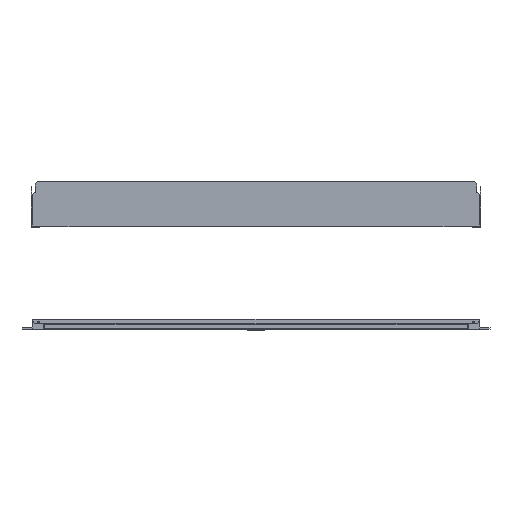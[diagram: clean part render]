
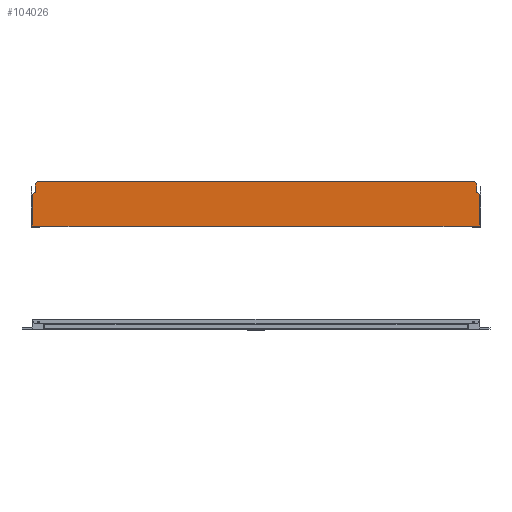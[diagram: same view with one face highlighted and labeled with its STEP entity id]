
A CAD part, front view. The second image highlights one B-rep face of the part: STEP entity #104026.
In plain terms, the highlighted planar face has unit normal (0, -1, 0).
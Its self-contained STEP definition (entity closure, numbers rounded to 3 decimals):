
#100126=CARTESIAN_POINT(' ',(547.5,-1.5,0.6));
#100127=VERTEX_POINT(' ',#100126);
#100356=CARTESIAN_POINT(' ',(547.5,-1.5,0.6));
#100361=DIRECTION(' ',(-1.,0.,0.));
#100366=VECTOR(' ',#100361,1.);
#100371=LINE('',#100356,#100366);
#100376=CARTESIAN_POINT(' ',(-547.5,-1.5,0.6));
#100377=VERTEX_POINT(' ',#100376);
#100381=EDGE_CURVE(' ',#100127,#100377,#100371,.T.);
#103571=CARTESIAN_POINT(' ',(547.5,-1.5,78.5));
#103572=VERTEX_POINT(' ',#103571);
#103586=CARTESIAN_POINT(' ',(547.5,-1.5,78.5));
#103591=DIRECTION(' ',(0.,0.,-1.));
#103596=VECTOR(' ',#103591,1.);
#103601=LINE('',#103586,#103596);
#103606=EDGE_CURVE(' ',#103572,#100127,#103601,.T.);
#103636=DIRECTION(' ',(0.,-1.,0.));
#103641=CARTESIAN_POINT(' ',(-547.5,-1.5,108.5));
#103646=DIRECTION(' ',(0.,0.,-1.));
#103651=AXIS2_PLACEMENT_3D(' ',#103641,#103636,#103646);
#103656=PLANE('NONE',#103651);
#103661=ORIENTED_EDGE(' ',*,*,#103606,.F.);
#103666=CARTESIAN_POINT(' ',(547.5,-1.5,78.5));
#103671=DIRECTION(' ',(-0.707,0.,0.707));
#103676=VECTOR(' ',#103671,1.);
#103681=LINE('',#103666,#103676);
#103686=CARTESIAN_POINT(' ',(542.5,-1.5,83.5));
#103687=VERTEX_POINT(' ',#103686);
#103691=EDGE_CURVE(' ',#103572,#103687,#103681,.T.);
#103696=ORIENTED_EDGE(' ',*,*,#103691,.T.);
#103701=CARTESIAN_POINT(' ',(540.5,-1.5,83.5));
#103706=DIRECTION(' ',(1.,0.,0.));
#103711=VECTOR(' ',#103706,1.);
#103716=LINE('',#103701,#103711);
#103721=CARTESIAN_POINT(' ',(540.5,-1.5,83.5));
#103722=VERTEX_POINT(' ',#103721);
#103726=EDGE_CURVE(' ',#103722,#103687,#103716,.T.);
#103731=ORIENTED_EDGE(' ',*,*,#103726,.F.);
#103736=CARTESIAN_POINT(' ',(540.5,-1.5,83.5));
#103741=DIRECTION(' ',(0.,0.,1.));
#103746=VECTOR(' ',#103741,1.);
#103751=LINE('',#103736,#103746);
#103756=CARTESIAN_POINT(' ',(540.5,-1.5,103.5));
#103757=VERTEX_POINT(' ',#103756);
#103761=EDGE_CURVE(' ',#103722,#103757,#103751,.T.);
#103766=ORIENTED_EDGE(' ',*,*,#103761,.T.);
#103771=CARTESIAN_POINT(' ',(540.5,-1.5,103.5));
#103776=DIRECTION(' ',(-0.707,0.,0.707));
#103781=VECTOR(' ',#103776,1.);
#103786=LINE('',#103771,#103781);
#103791=CARTESIAN_POINT(' ',(535.5,-1.5,108.5));
#103792=VERTEX_POINT(' ',#103791);
#103796=EDGE_CURVE(' ',#103757,#103792,#103786,.T.);
#103801=ORIENTED_EDGE(' ',*,*,#103796,.T.);
#103806=CARTESIAN_POINT(' ',(535.5,-1.5,108.5));
#103811=DIRECTION(' ',(-1.,0.,0.));
#103816=VECTOR(' ',#103811,1.);
#103821=LINE('',#103806,#103816);
#103826=CARTESIAN_POINT(' ',(-535.5,-1.5,108.5));
#103827=VERTEX_POINT(' ',#103826);
#103831=EDGE_CURVE(' ',#103792,#103827,#103821,.T.);
#103836=ORIENTED_EDGE(' ',*,*,#103831,.T.);
#103841=CARTESIAN_POINT(' ',(-535.5,-1.5,108.5));
#103846=DIRECTION(' ',(-0.707,0.,-0.707));
#103851=VECTOR(' ',#103846,1.);
#103856=LINE('',#103841,#103851);
#103861=CARTESIAN_POINT(' ',(-540.5,-1.5,103.5));
#103862=VERTEX_POINT(' ',#103861);
#103866=EDGE_CURVE(' ',#103827,#103862,#103856,.T.);
#103871=ORIENTED_EDGE(' ',*,*,#103866,.T.);
#103876=CARTESIAN_POINT(' ',(-540.5,-1.5,83.5));
#103881=DIRECTION(' ',(0.,0.,1.));
#103886=VECTOR(' ',#103881,1.);
#103891=LINE('',#103876,#103886);
#103896=CARTESIAN_POINT(' ',(-540.5,-1.5,83.5));
#103897=VERTEX_POINT(' ',#103896);
#103901=EDGE_CURVE(' ',#103897,#103862,#103891,.T.);
#103906=ORIENTED_EDGE(' ',*,*,#103901,.F.);
#103911=CARTESIAN_POINT(' ',(-540.5,-1.5,83.5));
#103916=DIRECTION(' ',(-1.,0.,0.));
#103921=VECTOR(' ',#103916,1.);
#103926=LINE('',#103911,#103921);
#103931=CARTESIAN_POINT(' ',(-542.5,-1.5,83.5));
#103932=VERTEX_POINT(' ',#103931);
#103936=EDGE_CURVE(' ',#103897,#103932,#103926,.T.);
#103941=ORIENTED_EDGE(' ',*,*,#103936,.T.);
#103946=CARTESIAN_POINT(' ',(-542.5,-1.5,83.5));
#103951=DIRECTION(' ',(-0.707,0.,-0.707));
#103956=VECTOR(' ',#103951,1.);
#103961=LINE('',#103946,#103956);
#103966=CARTESIAN_POINT(' ',(-547.5,-1.5,78.5));
#103967=VERTEX_POINT(' ',#103966);
#103971=EDGE_CURVE(' ',#103932,#103967,#103961,.T.);
#103976=ORIENTED_EDGE(' ',*,*,#103971,.T.);
#103981=CARTESIAN_POINT(' ',(-547.5,-1.5,0.6));
#103986=DIRECTION(' ',(0.,0.,1.));
#103991=VECTOR(' ',#103986,1.);
#103996=LINE('',#103981,#103991);
#104001=EDGE_CURVE(' ',#100377,#103967,#103996,.T.);
#104006=ORIENTED_EDGE(' ',*,*,#104001,.F.);
#104011=ORIENTED_EDGE(' ',*,*,#100381,.F.);
#104016=EDGE_LOOP(' ',(#103661,#103696,#103731,#103766,#103801,#103836,#103871,#103906,#103941,#103976,#104006,#104011));
#104021=FACE_OUTER_BOUND(' ',#104016,.T.);
#104026=ADVANCED_FACE('NONE',(#104021),#103656,.T.);
